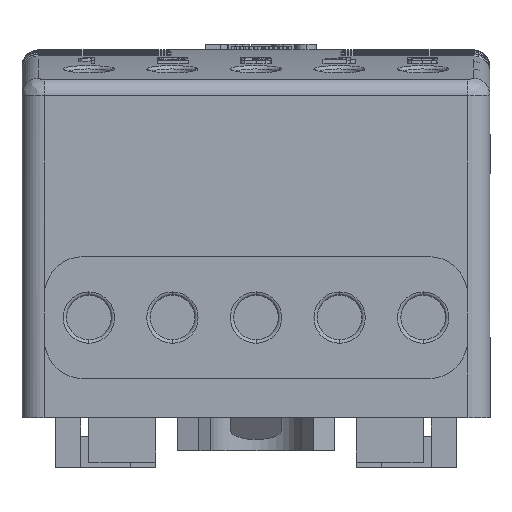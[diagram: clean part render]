
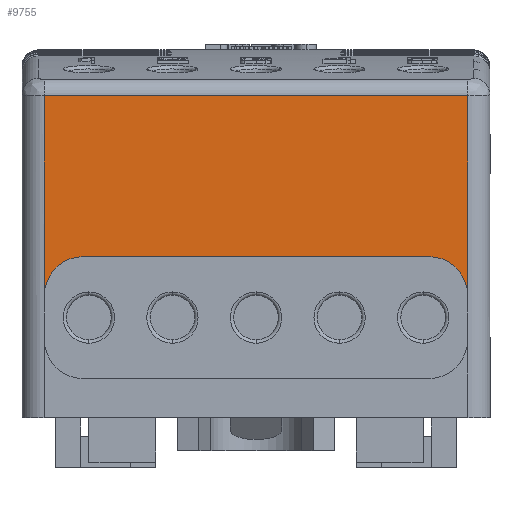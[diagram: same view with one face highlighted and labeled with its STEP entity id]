
A CAD part, front view. The second image highlights one B-rep face of the part: STEP entity #9755.
In plain terms, the highlighted planar face has unit normal (0, -1, 0).
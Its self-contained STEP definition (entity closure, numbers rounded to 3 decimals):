
#353 = VERTEX_POINT ( 'NONE', #11707 ) ;
#501 = VECTOR ( 'NONE', #8640, 1000. ) ;
#1097 = CARTESIAN_POINT ( 'NONE',  ( 2., -31.5, 10.943 ) ) ;
#1158 = DIRECTION ( 'NONE',  ( 0., 1., 0. ) ) ;
#1453 = CARTESIAN_POINT ( 'NONE',  ( 5.5, -31.5, 10.943 ) ) ;
#2667 = CIRCLE ( 'NONE', #16349, 3.5 ) ;
#2693 = VERTEX_POINT ( 'NONE', #6741 ) ;
#3052 = CARTESIAN_POINT ( 'NONE',  ( 40., -31.5, 33. ) ) ;
#3222 = DIRECTION ( 'NONE',  ( -1., 0., 0. ) ) ;
#3812 = DIRECTION ( 'NONE',  ( 0., 0., 1. ) ) ;
#5641 = DIRECTION ( 'NONE',  ( 0., 0., 1. ) ) ;
#6307 = CARTESIAN_POINT ( 'NONE',  ( 2., -31.5, 14.443 ) ) ;
#6310 = VECTOR ( 'NONE', #3222, 1000. ) ;
#6741 = CARTESIAN_POINT ( 'NONE',  ( 36.5, -31.5, 14.443 ) ) ;
#8091 = FACE_OUTER_BOUND ( 'NONE', #13427, .T. ) ;
#8640 = DIRECTION ( 'NONE',  ( -1., 0., 0. ) ) ;
#8830 = VECTOR ( 'NONE', #20986, 1000. ) ;
#9755 = ADVANCED_FACE ( 'NONE', ( #8091 ), #14913, .F. ) ;
#10111 = VERTEX_POINT ( 'NONE', #16227 ) ;
#10178 = CARTESIAN_POINT ( 'NONE',  ( 5.5, -31.5, 14.443 ) ) ;
#11672 = CARTESIAN_POINT ( 'NONE',  ( 2., -31.5, 33. ) ) ;
#11707 = CARTESIAN_POINT ( 'NONE',  ( 40., -31.5, 10.943 ) ) ;
#13427 = EDGE_LOOP ( 'NONE', ( #28356, #23032, #18128, #17355, #20239, #25943 ) ) ;
#14292 = LINE ( 'NONE', #11672, #8830 ) ;
#14547 = VERTEX_POINT ( 'NONE', #1097 ) ;
#14913 = PLANE ( 'NONE',  #27198 ) ;
#15161 = CARTESIAN_POINT ( 'NONE',  ( 36.5, -31.5, 10.943 ) ) ;
#16227 = CARTESIAN_POINT ( 'NONE',  ( 2., -31.5, 28.887 ) ) ;
#16349 = AXIS2_PLACEMENT_3D ( 'NONE', #15161, #1158, #17506 ) ;
#17355 = ORIENTED_EDGE ( 'NONE', *, *, #25208, .T. ) ;
#17506 = DIRECTION ( 'NONE',  ( 0., 0., 1. ) ) ;
#17803 = DIRECTION ( 'NONE',  ( 0., 1., 0. ) ) ;
#17971 = LINE ( 'NONE', #19986, #6310 ) ;
#18128 = ORIENTED_EDGE ( 'NONE', *, *, #26545, .T. ) ;
#18411 = LINE ( 'NONE', #6307, #501 ) ;
#19401 = DIRECTION ( 'NONE',  ( 0., 0., 1. ) ) ;
#19625 = DIRECTION ( 'NONE',  ( 0., 1., 0. ) ) ;
#19986 = CARTESIAN_POINT ( 'NONE',  ( 0., -31.5, 28.887 ) ) ;
#20239 = ORIENTED_EDGE ( 'NONE', *, *, #25419, .T. ) ;
#20986 = DIRECTION ( 'NONE',  ( 0., 0., -1. ) ) ;
#21680 = EDGE_CURVE ( 'NONE', #2693, #22374, #18411, .T. ) ;
#22373 = CIRCLE ( 'NONE', #23845, 3.5 ) ;
#22374 = VERTEX_POINT ( 'NONE', #10178 ) ;
#22753 = VERTEX_POINT ( 'NONE', #26304 ) ;
#23032 = ORIENTED_EDGE ( 'NONE', *, *, #23478, .T. ) ;
#23478 = EDGE_CURVE ( 'NONE', #2693, #353, #2667, .T. ) ;
#23845 = AXIS2_PLACEMENT_3D ( 'NONE', #1453, #17803, #3812 ) ;
#24233 = CARTESIAN_POINT ( 'NONE',  ( 0., -31.5, 33. ) ) ;
#25208 = EDGE_CURVE ( 'NONE', #22753, #10111, #17971, .T. ) ;
#25419 = EDGE_CURVE ( 'NONE', #10111, #14547, #14292, .T. ) ;
#25636 = EDGE_CURVE ( 'NONE', #14547, #22374, #22373, .T. ) ;
#25943 = ORIENTED_EDGE ( 'NONE', *, *, #25636, .T. ) ;
#26304 = CARTESIAN_POINT ( 'NONE',  ( 40., -31.5, 28.887 ) ) ;
#26545 = EDGE_CURVE ( 'NONE', #353, #22753, #27081, .T. ) ;
#27081 = LINE ( 'NONE', #3052, #27811 ) ;
#27198 = AXIS2_PLACEMENT_3D ( 'NONE', #24233, #19625, #5641 ) ;
#27811 = VECTOR ( 'NONE', #19401, 1000. ) ;
#28356 = ORIENTED_EDGE ( 'NONE', *, *, #21680, .F. ) ;
